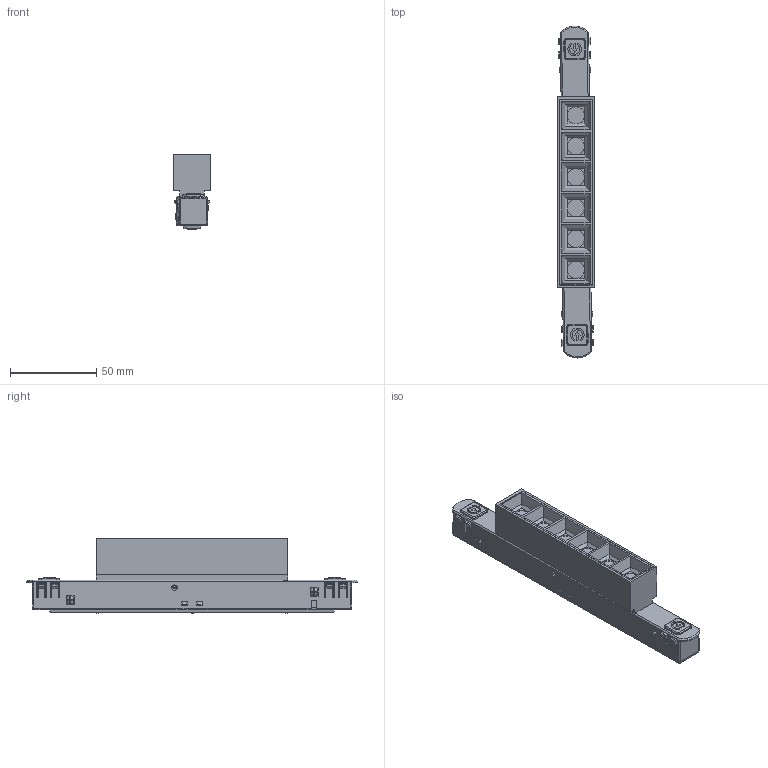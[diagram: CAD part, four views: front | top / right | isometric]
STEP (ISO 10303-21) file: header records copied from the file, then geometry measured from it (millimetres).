
FILE_DESCRIPTION (( 'STEP AP203' ), '1' );
FILE_NAME ('410096.STEP', '2025-04-02T02:16:31', ( '微软用户' ), ( '微软中国' ), 'SwSTEP 2.0', 'SolidWorks 2020', '' );
FILE_SCHEMA (( 'CONFIG_CONTROL_DESIGN' ));
Length unit declared in the file: millimetre
Products named in the file (18): ZUJIAN-GESHAN-12_ASM_9_ASM_ASM; MANIFOLD_SOLID_BREP_1147; 10-08-G1_1; 410097-A_ASM_ASM; MANIFOLD_SOLID_BREP_1148; 10-10-gk-2; MANIFOLD_SOLID_BREP_5198; MANIFOLD_SOLID_BREP_1149; 410096; MANIFOLD_SOLID_BREP_5197; MANIFOLD_SOLID_BREP_1150; ZUJIAN_TOUJING_6_ASM_1; MANIFOLD_SOLID_BREP_1155; MANIFOLD_SOLID_BREP_1145; MANIFOLD_SOLID_BREP_1156; GESHAN-12-TOU_5; MANIFOLD_SOLID_BREP_1146; 10-07-WJ1
Assembly tree (17 placements, depth 4):
  410096
    410097-A_ASM_ASM
      ZUJIAN-GESHAN-12_ASM_9_ASM_ASM
        GESHAN-12-TOU_5
    ZUJIAN_TOUJING_6_ASM_1
      MANIFOLD_SOLID_BREP_5198
      MANIFOLD_SOLID_BREP_5197
    10-10-gk-2
      MANIFOLD_SOLID_BREP_1145
      MANIFOLD_SOLID_BREP_1146
      MANIFOLD_SOLID_BREP_1147
      MANIFOLD_SOLID_BREP_1148
      MANIFOLD_SOLID_BREP_1149
      MANIFOLD_SOLID_BREP_1150
      MANIFOLD_SOLID_BREP_1155
      MANIFOLD_SOLID_BREP_1156
      10-07-WJ1
      10-08-G1_1
Bounding box: 22 x 192.79 x 43.2 mm (x, y, z)
Volume: 45801.6 mm3; surface area: 67692.5 mm2
Topology: 17 solids, 18 shells, 1819 faces, 4951 edges, 3206 vertices
Faces by surface type: plane 1262, cylinder 319, cone 127, bspline 111
Entity records: 73010 total; most frequent: CARTESIAN_POINT 27216, ORIENTED_EDGE 9902, DIRECTION 7777, EDGE_CURVE 4951, VECTOR 3443, LINE 3443, VERTEX_POINT 3206, AXIS2_PLACEMENT_3D 2167
